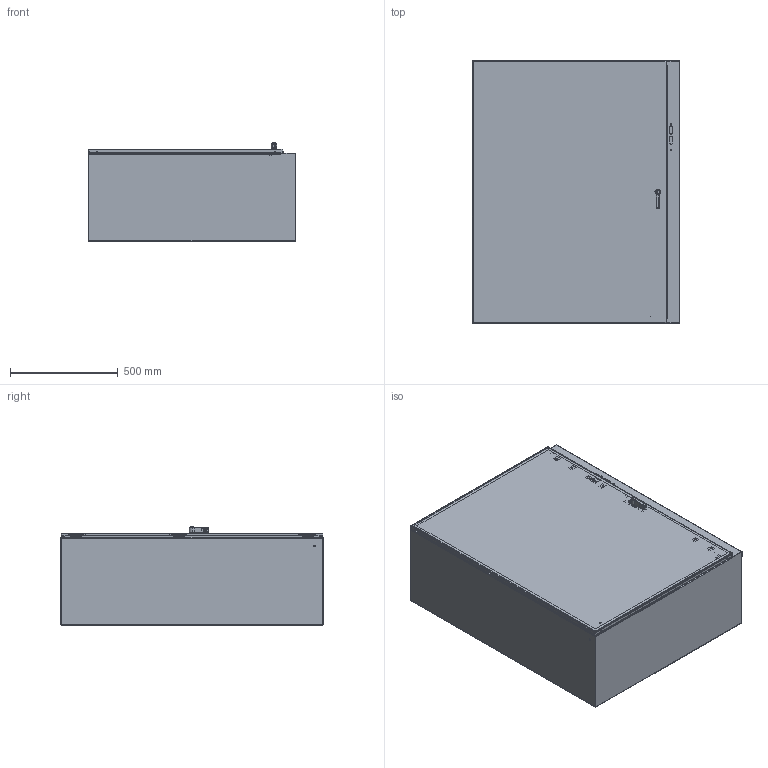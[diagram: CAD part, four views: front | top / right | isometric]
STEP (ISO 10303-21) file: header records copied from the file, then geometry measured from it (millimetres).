
FILE_DESCRIPTION (( 'STEP AP203' ), '1' );
FILE_NAME ('cdsc483816.STEP', '2020-02-14T16:18:49', ( '' ), ( '' ), 'SwSTEP 2.0', 'SolidWorks 2016', '' );
FILE_SCHEMA (( 'CONFIG_CONTROL_DESIGN' ));
Length unit declared in the file: inch
Products named in the file (46): 89175157_89175157; 64207001; 87938404_assy; 87938437; 64208001; cdsc483816; 89173485; 64206005; 89123196; 89123202; 87938383; 51123001_Post weld; 99401225; 87929767; 89173484; 87932266; 89076399; 87415914_Locked; 22101011; 89116588; 87929507; 87541995; 89076193; 99411612; 64157001_Locked; 87927840_87927840; 89131630; 23271001_After Weld; 99411839_99411839; 87929769_Installed on Pin; 87555298; 89116589; 87784879_CWHPTO; 87543027; 99401225_Config-Drawing; 79410_LOCKED; 89117453; 64210001; 89117454; 64103001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
Assembly tree (73 placements, depth 5):
  cdsc483816
    89117454
      89117453
      89116588
      89116589
      23271001_After Weld  x8
      99401225_Config-Drawing
    87543027  x3
    89076399  x3
      89076193
      89131630
    87929507  x3
      87929767
      87929769_Installed on Pin
    87938404_assy
      87938426_fip
        87938383
        99401225  x3
        51123001_Post weld
      87415914_Locked
        64157001_Locked
          87540678
          64210001
          64208001
          64205001  x2
          87541995
          87932266
          87927840_87927840
        64103001  x5
        64206005  x2
        64207001  x2
        99411834  x3
        64212006
        64144001
        99411612  x2
      87555298
      87938437
      22101011  x2
      99411839_99411839  x2
      89173484
      89173485
      89175157_89175157  x2
    87784879_CWHPTO
      79410_LOCKED
    89123202
      89123196
Bounding box: 963.93 x 1219.2 x 454.96 mm (x, y, z)
Volume: 8342868.8 mm3; surface area: 8937099.4 mm2
Topology: 71 solids, 71 shells, 4683 faces, 12209 edges, 7716 vertices
Faces by surface type: plane 2112, cylinder 1214, bspline 920, torus 229, cone 147, sphere 61
Entity records: 106996 total; most frequent: CARTESIAN_POINT 39189, ORIENTED_EDGE 13726, DIRECTION 11740, EDGE_CURVE 6863, VERTEX_POINT 4356, AXIS2_PLACEMENT_3D 3954, VECTOR 3832, LINE 3832
